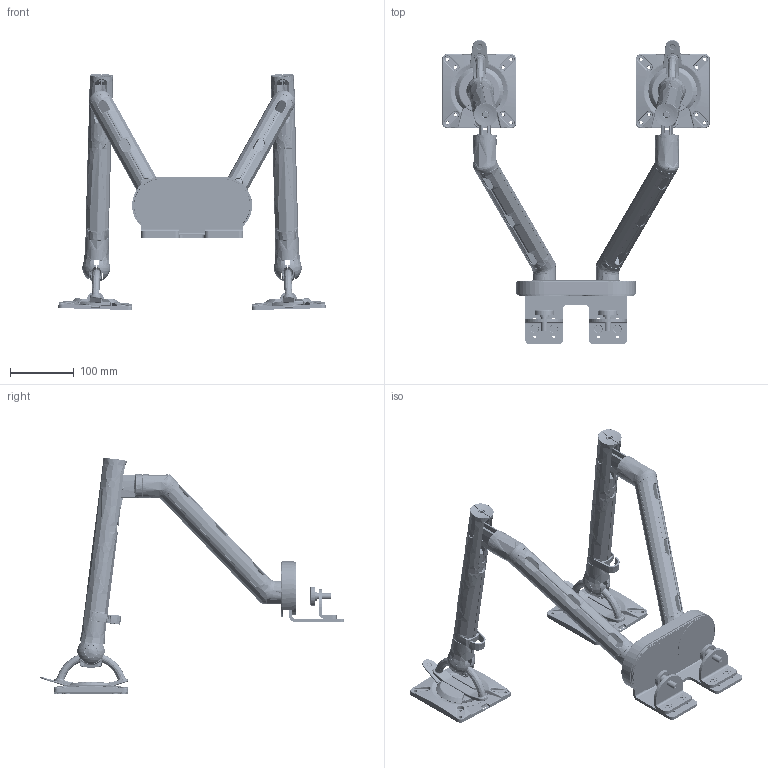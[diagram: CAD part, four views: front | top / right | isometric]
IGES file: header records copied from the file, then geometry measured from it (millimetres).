
Start section: SolidWorks IGES file using analytic representation for surfaces
Global section: file name: Z:\Customer CAD\Flo with Dual Split Clamp\DYN-DUAL-001.IGS; native system: SolidWorks 2013; preprocessor: SolidWorks 2013; author: custcad; date: 130521.172644; units: millimetre
Bounding box: 420.49 x 478.57 x 371.4 mm (x, y, z)
Surface area: 688171.8 mm2 (no closed solid volume)
Topology: 0 solids, 0 shells, 3210 faces, 41412 edges, 41341 vertices
Faces by surface type: bspline 1816, revolution 1394
